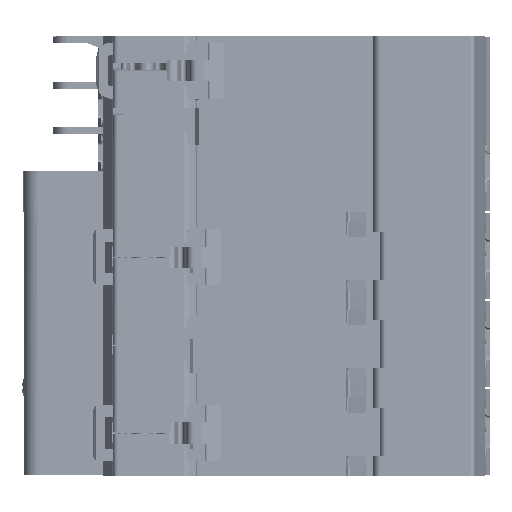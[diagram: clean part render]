
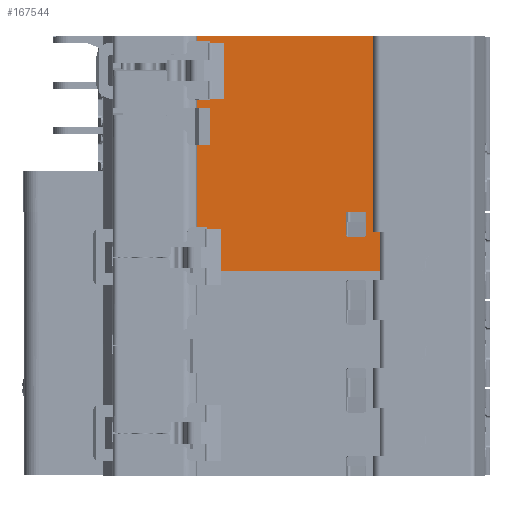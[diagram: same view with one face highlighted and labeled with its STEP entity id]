
A CAD part, front view. The second image highlights one B-rep face of the part: STEP entity #167544.
In plain terms, the highlighted planar face has unit normal (0, -1, 0).
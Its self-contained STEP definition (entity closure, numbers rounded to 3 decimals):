
#25918=DIRECTION('',(1.,0.,0.));
#25919=VECTOR('',#25918,0.789);
#25920=CARTESIAN_POINT('',(4.8,-37.,-15.45));
#25921=LINE('',#25920,#25919);
#25922=DIRECTION('',(0.,0.,1.));
#25923=VECTOR('',#25922,0.528);
#25924=CARTESIAN_POINT('',(4.8,-37.,-15.45));
#25925=LINE('',#25924,#25923);
#25926=DIRECTION('',(-1.,0.,0.));
#25927=VECTOR('',#25926,2.);
#25928=CARTESIAN_POINT('',(4.8,-37.,-14.922));
#25929=LINE('',#25928,#25927);
#25930=DIRECTION('',(0.,0.,1.));
#25931=VECTOR('',#25930,7.5);
#25932=CARTESIAN_POINT('',(5.4,-37.,1.5));
#25933=LINE('',#25932,#25931);
#25934=DIRECTION('',(0.,0.,1.));
#25935=VECTOR('',#25934,1.5);
#25936=CARTESIAN_POINT('',(2.8,-37.,9.));
#25937=LINE('',#25936,#25935);
#25938=DIRECTION('',(1.,0.,0.));
#25939=VECTOR('',#25938,0.158);
#25940=CARTESIAN_POINT('',(5.4,-37.,10.85));
#25941=LINE('',#25940,#25939);
#25942=DIRECTION('',(0.,0.,-1.));
#25943=VECTOR('',#25942,11.3);
#25944=CARTESIAN_POINT('',(5.558,-37.,22.15));
#25945=LINE('',#25944,#25943);
#25946=DIRECTION('',(1.,0.,0.));
#25947=VECTOR('',#25946,0.158);
#25948=CARTESIAN_POINT('',(5.4,-37.,22.15));
#25949=LINE('',#25948,#25947);
#25950=DIRECTION('',(-1.,0.,0.));
#25951=VECTOR('',#25950,2.6);
#25952=CARTESIAN_POINT('',(5.4,-37.,22.5));
#25953=LINE('',#25952,#25951);
#25954=DIRECTION('',(0.,0.,1.));
#25955=VECTOR('',#25954,0.9);
#25956=CARTESIAN_POINT('',(2.8,-37.,22.5));
#25957=LINE('',#25956,#25955);
#25958=DIRECTION('',(1.,0.,0.));
#25959=VECTOR('',#25958,37.);
#25960=CARTESIAN_POINT('',(2.8,-37.,23.4));
#25961=LINE('',#25960,#25959);
#25962=DIRECTION('',(-1.,0.,0.));
#25963=VECTOR('',#25962,34.211);
#25964=CARTESIAN_POINT('',(39.8,-37.,-23.85));
#25965=LINE('',#25964,#25963);
#25966=DIRECTION('',(0.,0.,1.));
#25967=VECTOR('',#25966,8.4);
#25968=CARTESIAN_POINT('',(5.589,-37.,-23.85));
#25969=LINE('',#25968,#25967);
#25970=DIRECTION('',(-1.,0.,0.));
#25971=VECTOR('',#25970,4.062);
#25972=CARTESIAN_POINT('',(36.917,-37.,-12.));
#25973=LINE('',#25972,#25971);
#25974=DIRECTION('',(0.,0.,1.));
#25975=VECTOR('',#25974,4.5);
#25976=CARTESIAN_POINT('',(36.917,-37.,-16.5));
#25977=LINE('',#25976,#25975);
#27110=DIRECTION('',(0.,0.,-1.));
#27111=VECTOR('',#27110,16.422);
#27112=CARTESIAN_POINT('',(2.8,-37.,1.5));
#27113=LINE('',#27112,#27111);
#27207=DIRECTION('',(-1.,0.,0.));
#27208=VECTOR('',#27207,2.6);
#27209=CARTESIAN_POINT('',(5.4,-37.,1.5));
#27210=LINE('',#27209,#27208);
#27279=DIRECTION('',(1.,0.,0.));
#27280=VECTOR('',#27279,2.6);
#27281=CARTESIAN_POINT('',(2.8,-37.,9.));
#27282=LINE('',#27281,#27280);
#27413=DIRECTION('',(-1.,0.,0.));
#27414=VECTOR('',#27413,2.6);
#27415=CARTESIAN_POINT('',(5.4,-37.,10.5));
#27416=LINE('',#27415,#27414);
#27526=DIRECTION('',(0.,0.,-1.));
#27527=VECTOR('',#27526,0.35);
#27528=CARTESIAN_POINT('',(5.4,-37.,22.5));
#27529=LINE('',#27528,#27527);
#27745=DIRECTION('',(0.,0.,-1.));
#27746=VECTOR('',#27745,0.35);
#27747=CARTESIAN_POINT('',(5.4,-37.,10.85));
#27748=LINE('',#27747,#27746);
#29979=DIRECTION('',(0.,0.,1.));
#29980=VECTOR('',#29979,47.25);
#29981=CARTESIAN_POINT('',(39.8,-37.,-23.85));
#29982=LINE('',#29981,#29980);
#30270=DIRECTION('',(-1.,0.,0.));
#30271=VECTOR('',#30270,3.046);
#30272=CARTESIAN_POINT('',(36.41,-37.,-17.));
#30273=LINE('',#30272,#30271);
#30292=CARTESIAN_POINT('',(36.917,-37.,-16.5));
#30293=CARTESIAN_POINT('',(36.917,-37.,-16.668));
#30294=CARTESIAN_POINT('',(36.788,-37.,-16.875));
#30295=CARTESIAN_POINT('',(36.578,-37.,-17.));
#30296=CARTESIAN_POINT('',(36.41,-37.,-17.));
#30478=DIRECTION('',(0.,0.,1.));
#30479=VECTOR('',#30478,4.5);
#30480=CARTESIAN_POINT('',(32.856,-37.,-16.5));
#30481=LINE('',#30480,#30479);
#30490=CARTESIAN_POINT('',(33.363,-37.,-17.));
#30491=CARTESIAN_POINT('',(33.195,-37.,-17.));
#30492=CARTESIAN_POINT('',(32.985,-37.,-16.875));
#30493=CARTESIAN_POINT('',(32.856,-37.,-16.668));
#30494=CARTESIAN_POINT('',(32.856,-37.,-16.5));
#107346=CARTESIAN_POINT('',(5.4,-37.,1.5));
#107347=CARTESIAN_POINT('',(2.8,-37.,1.5));
#107348=VERTEX_POINT('',#107346);
#107349=VERTEX_POINT('',#107347);
#108195=CARTESIAN_POINT('',(2.8,-37.,9.));
#108196=VERTEX_POINT('',#108195);
#108290=CARTESIAN_POINT('',(2.8,-37.,10.5));
#108291=VERTEX_POINT('',#108290);
#108292=CARTESIAN_POINT('',(5.4,-37.,10.5));
#108293=VERTEX_POINT('',#108292);
#108688=CARTESIAN_POINT('',(5.4,-37.,9.));
#108689=VERTEX_POINT('',#108688);
#109996=CARTESIAN_POINT('',(39.8,-37.,23.4));
#109997=VERTEX_POINT('',#109996);
#109998=CARTESIAN_POINT('',(2.8,-37.,23.4));
#109999=VERTEX_POINT('',#109998);
#110106=CARTESIAN_POINT('',(2.8,-37.,22.5));
#110107=VERTEX_POINT('',#110106);
#110108=CARTESIAN_POINT('',(5.4,-37.,22.5));
#110109=VERTEX_POINT('',#110108);
#113133=CARTESIAN_POINT('',(5.4,-37.,22.15));
#113134=CARTESIAN_POINT('',(5.558,-37.,22.15));
#113135=VERTEX_POINT('',#113133);
#113136=VERTEX_POINT('',#113134);
#113137=CARTESIAN_POINT('',(5.4,-37.,10.85));
#113138=CARTESIAN_POINT('',(5.558,-37.,10.85));
#113139=VERTEX_POINT('',#113137);
#113140=VERTEX_POINT('',#113138);
#132784=CARTESIAN_POINT('',(2.8,-37.,-14.922));
#132785=VERTEX_POINT('',#132784);
#132786=CARTESIAN_POINT('',(4.8,-37.,-14.922));
#132787=VERTEX_POINT('',#132786);
#133290=CARTESIAN_POINT('',(39.8,-37.,-23.85));
#133292=VERTEX_POINT('',#133290);
#133325=CARTESIAN_POINT('',(36.41,-37.,-17.));
#133326=VERTEX_POINT('',#133325);
#133327=CARTESIAN_POINT('',(33.363,-37.,-17.));
#133328=VERTEX_POINT('',#133327);
#133329=CARTESIAN_POINT('',(36.917,-37.,-16.5));
#133330=VERTEX_POINT('',#133329);
#133353=CARTESIAN_POINT('',(32.856,-37.,-16.5));
#133354=VERTEX_POINT('',#133353);
#134100=CARTESIAN_POINT('',(36.917,-37.,-12.));
#134102=VERTEX_POINT('',#134100);
#134105=CARTESIAN_POINT('',(32.856,-37.,-12.));
#134107=VERTEX_POINT('',#134105);
#134649=CARTESIAN_POINT('',(4.8,-37.,-15.45));
#134650=CARTESIAN_POINT('',(5.589,-37.,-15.45));
#134651=VERTEX_POINT('',#134649);
#134652=VERTEX_POINT('',#134650);
#134653=CARTESIAN_POINT('',(5.589,-37.,-23.85));
#134654=VERTEX_POINT('',#134653);
#167486=CARTESIAN_POINT('',(2.8,-37.,0.));
#167487=DIRECTION('',(0.,-1.,0.));
#167488=DIRECTION('',(1.,0.,0.));
#167489=AXIS2_PLACEMENT_3D('',#167486,#167487,#167488);
#167490=PLANE('',#167489);
#167492=ORIENTED_EDGE('',*,*,#167491,.F.);
#167494=ORIENTED_EDGE('',*,*,#167493,.T.);
#167496=ORIENTED_EDGE('',*,*,#167495,.T.);
#167498=ORIENTED_EDGE('',*,*,#167497,.F.);
#167500=ORIENTED_EDGE('',*,*,#167499,.F.);
#167502=ORIENTED_EDGE('',*,*,#167501,.T.);
#167504=ORIENTED_EDGE('',*,*,#167503,.F.);
#167506=ORIENTED_EDGE('',*,*,#167505,.T.);
#167508=ORIENTED_EDGE('',*,*,#167507,.F.);
#167510=ORIENTED_EDGE('',*,*,#167509,.F.);
#167512=ORIENTED_EDGE('',*,*,#167511,.T.);
#167514=ORIENTED_EDGE('',*,*,#167513,.F.);
#167515=ORIENTED_EDGE('',*,*,#167449,.F.);
#167517=ORIENTED_EDGE('',*,*,#167516,.F.);
#167518=ORIENTED_EDGE('',*,*,#166820,.T.);
#167520=ORIENTED_EDGE('',*,*,#167519,.T.);
#167521=ORIENTED_EDGE('',*,*,#166774,.T.);
#167523=ORIENTED_EDGE('',*,*,#167522,.F.);
#167525=ORIENTED_EDGE('',*,*,#167524,.T.);
#167527=ORIENTED_EDGE('',*,*,#167526,.T.);
#167528=EDGE_LOOP('',(#167492,#167494,#167496,#167498,#167500,#167502,#167504,
#167506,#167508,#167510,#167512,#167514,#167515,#167517,#167518,#167520,#167521,
#167523,#167525,#167527));
#167529=FACE_OUTER_BOUND('',#167528,.F.);
#167531=ORIENTED_EDGE('',*,*,#167530,.T.);
#167533=ORIENTED_EDGE('',*,*,#167532,.F.);
#167535=ORIENTED_EDGE('',*,*,#167534,.F.);
#167537=ORIENTED_EDGE('',*,*,#167536,.F.);
#167539=ORIENTED_EDGE('',*,*,#167538,.F.);
#167541=ORIENTED_EDGE('',*,*,#167540,.T.);
#167542=EDGE_LOOP('',(#167531,#167533,#167535,#167537,#167539,#167541));
#167543=FACE_BOUND('',#167542,.F.);
#167544=ADVANCED_FACE('',(#167529,#167543),#167490,.T.);
#30297=B_SPLINE_CURVE_WITH_KNOTS('',3,(#30292,#30293,#30294,#30295,#30296),
.UNSPECIFIED.,.F.,.F.,(4,1,4),(0.,0.5,1.),.UNSPECIFIED.);
#30495=B_SPLINE_CURVE_WITH_KNOTS('',3,(#30490,#30491,#30492,#30493,#30494),
.UNSPECIFIED.,.F.,.F.,(4,1,4),(0.,0.5,1.),.UNSPECIFIED.);
#166774=EDGE_CURVE('',#109999,#109997,#25961,.T.);
#166820=EDGE_CURVE('',#110109,#110107,#25953,.T.);
#167449=EDGE_CURVE('',#113135,#113136,#25949,.T.);
#167491=EDGE_CURVE('',#134651,#134652,#25921,.T.);
#167493=EDGE_CURVE('',#134651,#132787,#25925,.T.);
#167495=EDGE_CURVE('',#132787,#132785,#25929,.T.);
#167497=EDGE_CURVE('',#107349,#132785,#27113,.T.);
#167499=EDGE_CURVE('',#107348,#107349,#27210,.T.);
#167501=EDGE_CURVE('',#107348,#108689,#25933,.T.);
#167503=EDGE_CURVE('',#108196,#108689,#27282,.T.);
#167505=EDGE_CURVE('',#108196,#108291,#25937,.T.);
#167507=EDGE_CURVE('',#108293,#108291,#27416,.T.);
#167509=EDGE_CURVE('',#113139,#108293,#27748,.T.);
#167511=EDGE_CURVE('',#113139,#113140,#25941,.T.);
#167513=EDGE_CURVE('',#113136,#113140,#25945,.T.);
#167516=EDGE_CURVE('',#110109,#113135,#27529,.T.);
#167519=EDGE_CURVE('',#110107,#109999,#25957,.T.);
#167522=EDGE_CURVE('',#133292,#109997,#29982,.T.);
#167524=EDGE_CURVE('',#133292,#134654,#25965,.T.);
#167526=EDGE_CURVE('',#134654,#134652,#25969,.T.);
#167530=EDGE_CURVE('',#134102,#134107,#25973,.T.);
#167532=EDGE_CURVE('',#133354,#134107,#30481,.T.);
#167534=EDGE_CURVE('',#133328,#133354,#30495,.T.);
#167536=EDGE_CURVE('',#133326,#133328,#30273,.T.);
#167538=EDGE_CURVE('',#133330,#133326,#30297,.T.);
#167540=EDGE_CURVE('',#133330,#134102,#25977,.T.);
